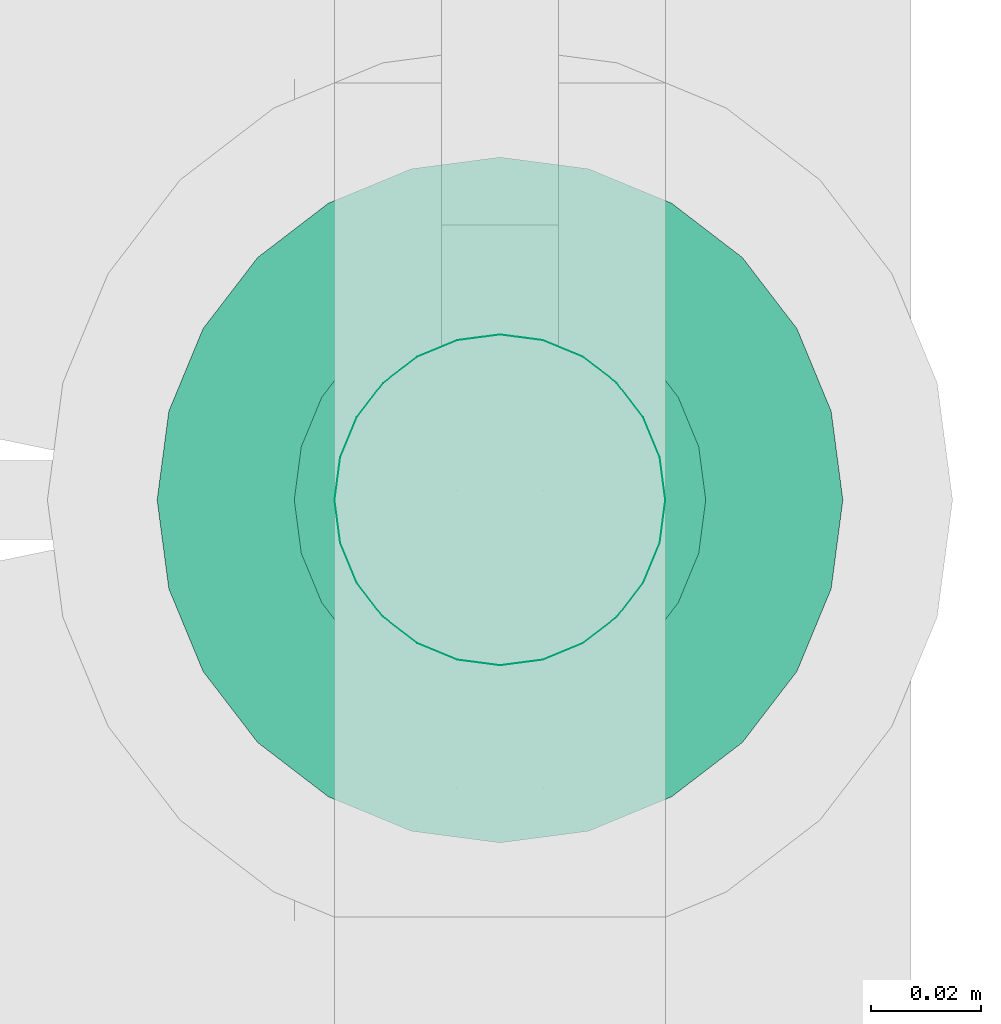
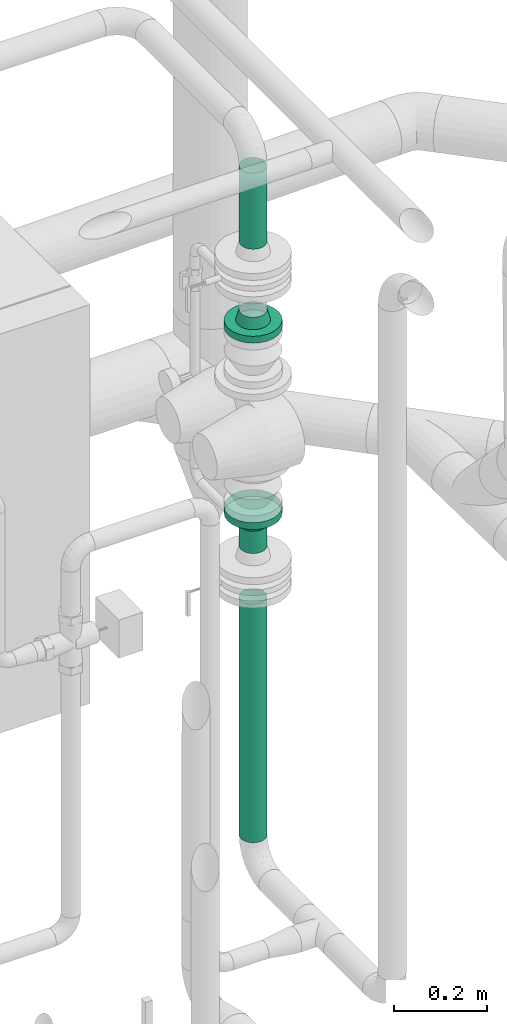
# One storey, part 288 of 374: 3 flow segments, 2 flow fittings.
"""IFC2X3 building model written with IfcOpenShell, lengths in metres."""

from ifc_helpers import new_model, si_unit, direction, origin, place, context, subcontext, project, spatial, open_shell, surface_model, source, transform, mapped, element, save


model = new_model("IFC2X3")

# Units and contexts
model_context = context("Model", 3, precision=1e-05, world=origin(), true_north=direction((-0.4480736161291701, 0.8939966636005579)))
body_context = subcontext(model_context, "Body", "Model", "MODEL_VIEW")
ifc_project = project(units=[si_unit("LENGTHUNIT", "METRE"), si_unit("AREAUNIT", "SQUARE_METRE"), si_unit("VOLUMEUNIT", "CUBIC_METRE"), si_unit("PLANEANGLEUNIT", "RADIAN"), si_unit("THERMODYNAMICTEMPERATUREUNIT", "KELVIN"), si_unit("MASSUNIT", "GRAM", prefix="KILO"), si_unit("TIMEUNIT", "SECOND")], contexts=[model_context])

# Site, building, storey
site_placement = place(None, origin())
site = spatial("IfcSite", under=ifc_project, at=site_placement, Name="Site 1", CompositionType="ELEMENT")
building_placement = place(site_placement, origin())
building = spatial("IfcBuilding", under=site, at=building_placement, Name="Undefined", CompositionType="ELEMENT")
storey_placement = place(building_placement, origin())
storey = spatial("IfcBuildingStorey", under=building, at=storey_placement, Name="Rez de chauss\x8ee", CompositionType="ELEMENT", Elevation=0.0)

# Flow fittings
shared_shape_1 = source(origin(), body_context, "Body", "SurfaceModel", [
    surface_model("IfcFaceBasedSurfaceModel", [(0.027982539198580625, 0.0, 0.0), (0.02825238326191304, 0.007866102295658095, 7.105427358e-15), (0.00033562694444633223, 0.009783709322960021, 0.0), (0.0, 0.0, 0.0), (0.029043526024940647, 0.01544597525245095, -0.001966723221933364), (0.0013196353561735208, 0.01921141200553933, -0.0024461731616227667), (0.030302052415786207, 0.022223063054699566, -0.005766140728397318), (0.0028849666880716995, 0.027640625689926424, -0.007171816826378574), (0.03194219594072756, 0.02773551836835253, -0.011139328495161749), (0.0049249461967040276, 0.03449691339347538, -0.013854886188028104), (0.03385218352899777, 0.0316076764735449, -0.017720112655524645), (0.007300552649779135, 0.039313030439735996, -0.02203994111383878), (0.03590185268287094, 0.03357565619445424, -0.025060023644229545), (0.009849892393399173, 0.041760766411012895, -0.03116918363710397), (0.037951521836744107, 0.0335053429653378, -0.03265885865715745), (0.01239923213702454, 0.04167331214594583, -0.04062047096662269), (0.03986150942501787, 0.031401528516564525, -0.03999876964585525), (0.014774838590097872, 0.03905662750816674, -0.049749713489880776), (0.04150165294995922, 0.0274075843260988, -0.046579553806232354), (0.0168148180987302, 0.034089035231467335, -0.05793476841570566), (0.04276017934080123, 0.021795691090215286, -0.051952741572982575), (0.01838014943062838, 0.02710906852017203, -0.06461783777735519), (0.04355132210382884, 0.014948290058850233, -0.055752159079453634), (0.019364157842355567, 0.018592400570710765, -0.06934348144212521), (0.043821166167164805, 0.007332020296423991, -0.0577188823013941), (0.019699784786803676, 0.009119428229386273, -0.07178965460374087), (0.04355132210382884, -0.0005340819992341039, -0.0577188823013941), (0.019364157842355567, -0.0006642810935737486, -0.07178965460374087), (0.04276017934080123, -0.008113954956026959, -0.055752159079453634), (0.01838014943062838, -0.010091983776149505, -0.06934348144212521), (0.04150165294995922, -0.014891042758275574, -0.05195274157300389), (0.0168148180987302, -0.01852119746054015, -0.0646178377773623), (0.03986150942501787, -0.02040349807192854, -0.046579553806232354), (0.014774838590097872, -0.02537748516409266, -0.05793476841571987), (0.037951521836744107, -0.024275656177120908, -0.03999876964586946), (0.01239923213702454, -0.030193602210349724, -0.04974971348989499), (0.03590185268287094, -0.02624363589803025, -0.03265885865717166), (0.009849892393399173, -0.032641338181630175, -0.0406204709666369), (0.03385218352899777, -0.026173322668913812, -0.02506002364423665), (0.007300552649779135, -0.032553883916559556, -0.031169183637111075), (0.03194219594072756, -0.024069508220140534, -0.017720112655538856), (0.0049249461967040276, -0.02993719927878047, -0.0220399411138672), (0.030302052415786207, -0.02007556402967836, -0.011139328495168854), (0.0028849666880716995, -0.024969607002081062, -0.01385488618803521), (0.029043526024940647, -0.014463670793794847, -0.005766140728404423), (0.0013196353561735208, -0.017989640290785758, -0.00717181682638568), (0.02825238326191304, -0.007616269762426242, -0.001966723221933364), (0.00033562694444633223, -0.009472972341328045, -0.0024461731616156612), (0.009849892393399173, -0.05744203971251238, -0.04377090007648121), (0.005600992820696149, -0.05729628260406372, -0.028018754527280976), (-0.011766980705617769, -0.05670047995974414, -0.0327090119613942), (-0.007518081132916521, -0.056846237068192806, -0.04846115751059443), (0.0016416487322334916, -0.052935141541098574, -0.012803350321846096), (-0.015726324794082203, -0.052339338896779, -0.017493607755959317), (-0.0017583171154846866, -0.04465582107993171, 0.0008384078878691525), (-0.019126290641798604, -0.044060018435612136, -0.0038518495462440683), (-0.0043672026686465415, -0.03302254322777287, 0.011976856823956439), (-0.02173517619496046, -0.032426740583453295, 0.007286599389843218), (-0.006007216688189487, -0.018828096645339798, 0.01985292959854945), (-0.023375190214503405, -0.01823229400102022, 0.01516267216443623), (-0.00656659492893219, -0.0030398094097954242, 0.023929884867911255), (-0.023934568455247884, -0.002444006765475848, 0.019239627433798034), (-0.006007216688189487, 0.01326637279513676, 0.023929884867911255), (-0.023375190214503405, 0.013862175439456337, 0.019239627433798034), (-0.0043672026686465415, 0.02897921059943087, 0.019852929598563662), (-0.02173517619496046, 0.029575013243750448, 0.015162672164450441), (-0.0017583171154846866, 0.04302790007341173, 0.011976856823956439), (-0.019126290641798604, 0.043623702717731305, 0.007286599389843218), (0.0016416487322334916, 0.05445504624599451, 0.0008384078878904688), (-0.015726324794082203, 0.055050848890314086, -0.003851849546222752), (0.005600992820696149, 0.062481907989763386, -0.01280335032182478), (-0.011766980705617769, 0.06307771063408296, -0.017493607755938), (0.009849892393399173, 0.0665614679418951, -0.02801875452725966), (-0.007518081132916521, 0.06715727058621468, -0.03270901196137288), (0.014098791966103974, 0.06641571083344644, -0.04377090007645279), (-0.0032691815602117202, 0.06701151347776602, -0.04846115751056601), (0.01805813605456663, 0.062054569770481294, -0.05898630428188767), (0.0006901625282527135, 0.06265037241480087, -0.06367656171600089), (0.021458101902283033, 0.05377524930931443, -0.07262806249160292), (0.004090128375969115, 0.05437105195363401, -0.07731831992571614), (0.024066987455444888, 0.04214197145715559, -0.083766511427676), (0.00669901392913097, 0.04273777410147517, -0.08845676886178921), (0.025707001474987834, 0.027947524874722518, -0.09164258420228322), (0.008339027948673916, 0.028543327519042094, -0.09633284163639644), (0.026266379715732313, 0.012159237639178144, -0.09571953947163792), (0.008898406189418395, 0.01275504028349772, -0.10040979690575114), (0.025707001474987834, -0.0041469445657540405, -0.09571953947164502), (0.008339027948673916, -0.003551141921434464, -0.10040979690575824), (0.024066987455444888, -0.01985978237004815, -0.09164258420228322), (0.00669901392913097, -0.019263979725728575, -0.09633284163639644), (0.021458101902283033, -0.03390847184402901, -0.0837665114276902), (0.004090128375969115, -0.03331266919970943, -0.08845676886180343), (0.01805813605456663, -0.04533561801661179, -0.07262806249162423), (0.0006901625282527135, -0.04473981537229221, -0.07731831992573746), (0.014098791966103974, -0.053362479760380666, -0.058986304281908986), (-0.0032691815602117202, -0.05276667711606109, -0.0636765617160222), (0.009849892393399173, 0.00455971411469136, -0.03589482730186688)], [open_shell([[[0, 1, 2, 3]], [[1, 4, 5, 2]], [[4, 6, 7, 5]], [[6, 8, 9, 7]], [[8, 10, 11, 9]], [[10, 12, 13, 11]], [[12, 14, 15, 13]], [[14, 16, 17, 15]], [[16, 18, 19, 17]], [[18, 20, 21, 19]], [[20, 22, 23, 21]], [[22, 24, 25, 23]], [[24, 26, 27, 25]], [[26, 28, 29, 27]], [[28, 30, 31, 29]], [[30, 32, 33, 31]], [[32, 34, 35, 33]], [[34, 36, 37, 35]], [[36, 38, 39, 37]], [[38, 40, 41, 39]], [[40, 42, 43, 41]], [[42, 44, 45, 43]], [[44, 46, 47, 45]], [[46, 0, 3, 47]], [[48, 49, 50, 51]], [[49, 52, 53, 50]], [[52, 54, 55, 53]], [[54, 56, 57, 55]], [[56, 58, 59, 57]], [[58, 60, 61, 59]], [[60, 62, 63, 61]], [[62, 64, 65, 63]], [[64, 66, 67, 65]], [[66, 68, 69, 67]], [[68, 70, 71, 69]], [[70, 72, 73, 71]], [[72, 74, 75, 73]], [[74, 76, 77, 75]], [[76, 78, 79, 77]], [[78, 80, 81, 79]], [[80, 82, 83, 81]], [[82, 84, 85, 83]], [[84, 86, 87, 85]], [[86, 88, 89, 87]], [[88, 90, 91, 89]], [[90, 92, 93, 91]], [[92, 94, 95, 93]], [[94, 48, 51, 95]], [[96, 49, 48]], [[96, 52, 49]], [[96, 54, 52]], [[96, 56, 54]], [[96, 58, 56]], [[96, 60, 58]], [[96, 62, 60]], [[96, 64, 62]], [[96, 66, 64]], [[96, 68, 66]], [[96, 70, 68]], [[96, 72, 70]], [[96, 74, 72]], [[96, 76, 74]], [[96, 78, 76]], [[96, 80, 78]], [[96, 82, 80]], [[96, 84, 82]], [[96, 86, 84]], [[96, 88, 86]], [[96, 90, 88]], [[96, 92, 90]], [[96, 94, 92]], [[96, 48, 94]]])]),
])
flow_fitting_1_placement = place(storey_placement, origin())
element("IfcFlowFitting", 1, at=flow_fitting_1_placement, inside=storey, Name="Bride", ObjectType="Bride", context=body_context, shape_type="MappedRepresentation", body=[
    mapped(shared_shape_1, transform((55.036829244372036, 11.997676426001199, 1.579175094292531), x_axis=(-0.26266379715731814, 0.0, 0.9648874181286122), y_axis=(-0.12159237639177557, -0.9920280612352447, -0.0331001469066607), z_axis=(0.957195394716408, -0.12601716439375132, 0.26056985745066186))),
])
shared_shape_2 = source(origin(), body_context, "Body", "SurfaceModel", [
    surface_model("IfcFaceBasedSurfaceModel", [(0.0, 0.0163157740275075, 0.0), (0.0, 0.0, 0.0), (0.018000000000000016, 0.0, 1.776356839e-15), (0.018000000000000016, 0.016315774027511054, 0.0), (0.0, -0.015759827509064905, -0.004222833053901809), (0.018000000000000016, -0.01575982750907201, -0.004222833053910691), (0.0, -0.029889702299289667, -0.012380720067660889), (0.018000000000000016, -0.02988970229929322, -0.012380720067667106), (0.0, -0.04142669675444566, -0.02391771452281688), (0.018000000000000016, -0.041426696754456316, -0.023917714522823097), (0.0, -0.04958458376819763, -0.038047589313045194), (0.018000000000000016, -0.04958458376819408, -0.0380475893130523), (0.0, -0.053807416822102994, -0.053807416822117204), (0.018000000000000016, -0.0538074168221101, -0.05380741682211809), (0.0, -0.053807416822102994, -0.07012319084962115), (0.018000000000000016, -0.053807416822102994, -0.07012319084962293), (0.0, -0.04958458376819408, -0.08588301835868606), (0.018000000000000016, -0.049584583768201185, -0.08588301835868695), (0.0, -0.04142669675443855, -0.10001289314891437), (0.018000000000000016, -0.041426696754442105, -0.10001289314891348), (0.0, -0.02988970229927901, -0.11154988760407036), (0.018000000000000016, -0.029889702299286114, -0.11154988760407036), (0.0, -0.015759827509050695, -0.11970777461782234), (0.018000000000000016, -0.015759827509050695, -0.11970777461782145), (0.0, 1.4210854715e-14, -0.12393060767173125), (0.018000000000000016, 1.4210854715e-14, -0.1239306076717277), (0.0, 0.016315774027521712, -0.12393060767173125), (0.018000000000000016, 0.016315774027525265, -0.12393060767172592), (0.0, 0.03207560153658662, -0.11970777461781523), (0.018000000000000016, 0.032075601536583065, -0.11970777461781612), (0.0, 0.04620547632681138, -0.11154988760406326), (0.018000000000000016, 0.04620547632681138, -0.11154988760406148), (0.0, 0.05774247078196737, -0.10001289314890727), (0.018000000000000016, 0.05774247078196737, -0.10001289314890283), (0.0, 0.06590035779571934, -0.08588301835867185), (0.018000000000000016, 0.06590035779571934, -0.08588301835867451), (0.0, 0.0701231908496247, -0.07012319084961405), (0.018000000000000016, 0.07012319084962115, -0.0701231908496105), (0.0, 0.0701231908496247, -0.05380741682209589), (0.018000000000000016, 0.07012319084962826, -0.05380741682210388), (0.0, 0.06590035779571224, -0.03804758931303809), (0.018000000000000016, 0.06590035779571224, -0.038047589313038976), (0.0, 0.05774247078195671, -0.023917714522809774), (0.018000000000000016, 0.057742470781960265, -0.023917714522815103), (0.0, 0.04620547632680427, -0.012380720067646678), (0.018000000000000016, 0.04620547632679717, -0.012380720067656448), (0.0, 0.03207560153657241, -0.004222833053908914), (0.018000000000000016, 0.03207560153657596, -0.004222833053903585), (0.018000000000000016, 0.00815788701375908, -0.06196530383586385), (0.018000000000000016, -0.029021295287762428, -0.05707057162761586), (0.018000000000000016, -0.029021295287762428, -0.06686003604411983), (0.04499999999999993, -0.021734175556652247, -0.06590066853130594), (0.04499999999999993, -0.021734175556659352, -0.05802993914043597), (0.018000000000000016, -0.026487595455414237, -0.0763159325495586), (0.04499999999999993, -0.019697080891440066, -0.07350320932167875), (0.018000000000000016, -0.021592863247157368, -0.08479385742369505), (0.04499999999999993, -0.015761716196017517, -0.08031946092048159), (0.018000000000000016, -0.014670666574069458, -0.09171605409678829), (0.04499999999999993, -0.010196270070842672, -0.08588490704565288), (0.018000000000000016, -0.00619274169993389, -0.09661078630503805), (0.04499999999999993, -0.0033800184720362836, -0.08982027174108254), (0.018000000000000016, 0.0032631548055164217, -0.0991444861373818), (0.04499999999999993, 0.004222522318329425, -0.09185736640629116), (0.018000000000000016, 0.013052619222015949, -0.0991444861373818), (0.04499999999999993, 0.012093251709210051, -0.09185736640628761), (0.018000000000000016, 0.02250851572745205, -0.09661078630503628), (0.04499999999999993, 0.01969579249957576, -0.08982027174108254), (0.018000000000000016, 0.03098644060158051, -0.09171605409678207), (0.04499999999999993, 0.026512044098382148, -0.08588490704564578), (0.018000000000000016, 0.03790863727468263, -0.08479385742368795), (0.04499999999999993, 0.03207749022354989, -0.08031946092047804), (0.018000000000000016, 0.042803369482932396, -0.07631593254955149), (0.04499999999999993, 0.03601285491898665, -0.07350320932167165), (0.018000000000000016, 0.04533706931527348, -0.06686003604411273), (0.04499999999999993, 0.03804994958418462, -0.06590066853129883), (0.018000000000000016, 0.04533706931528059, -0.05707057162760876), (0.04499999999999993, 0.03804994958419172, -0.05802993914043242), (0.018000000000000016, 0.042803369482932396, -0.047614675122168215), (0.04499999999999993, 0.03601285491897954, -0.05042739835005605), (0.018000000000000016, 0.03790863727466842, -0.039136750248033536), (0.04499999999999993, 0.03207749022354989, -0.043611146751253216), (0.018000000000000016, 0.03098644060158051, -0.03221455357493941), (0.04499999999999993, 0.026512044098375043, -0.03804570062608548), (0.018000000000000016, 0.02250851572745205, -0.027319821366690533), (0.04499999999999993, 0.01969579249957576, -0.03411033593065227), (0.018000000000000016, 0.013052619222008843, -0.024786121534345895), (0.04499999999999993, 0.01209325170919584, -0.032073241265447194), (0.018000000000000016, 0.003263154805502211, -0.024786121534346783), (0.04499999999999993, 0.004222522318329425, -0.03207324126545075), (0.018000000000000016, -0.006192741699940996, -0.02731982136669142), (0.04499999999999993, -0.003380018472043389, -0.03411033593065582), (0.018000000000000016, -0.014670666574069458, -0.032214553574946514), (0.04499999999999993, -0.010196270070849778, -0.03804570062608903), (0.018000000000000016, -0.021592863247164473, -0.039136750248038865), (0.04499999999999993, -0.01576171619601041, -0.04361114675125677), (0.018000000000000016, -0.026487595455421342, -0.0476146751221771), (0.04499999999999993, -0.019697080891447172, -0.05042739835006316)], [open_shell([[[0, 1, 2, 3]], [[1, 4, 5, 2]], [[4, 6, 7, 5]], [[6, 8, 9, 7]], [[8, 10, 11, 9]], [[10, 12, 13, 11]], [[12, 14, 15, 13]], [[14, 16, 17, 15]], [[16, 18, 19, 17]], [[18, 20, 21, 19]], [[20, 22, 23, 21]], [[22, 24, 25, 23]], [[24, 26, 27, 25]], [[26, 28, 29, 27]], [[28, 30, 31, 29]], [[30, 32, 33, 31]], [[32, 34, 35, 33]], [[34, 36, 37, 35]], [[36, 38, 39, 37]], [[38, 40, 41, 39]], [[40, 42, 43, 41]], [[42, 44, 45, 43]], [[44, 46, 47, 45]], [[46, 0, 3, 47]], [[48, 47, 3]], [[48, 45, 47]], [[48, 43, 45]], [[48, 41, 43]], [[48, 39, 41]], [[48, 37, 39]], [[48, 35, 37]], [[48, 33, 35]], [[48, 31, 33]], [[48, 29, 31]], [[48, 27, 29]], [[48, 25, 27]], [[48, 23, 25]], [[48, 21, 23]], [[48, 19, 21]], [[48, 17, 19]], [[48, 15, 17]], [[48, 13, 15]], [[48, 11, 13]], [[48, 9, 11]], [[48, 7, 9]], [[48, 5, 7]], [[48, 2, 5]], [[48, 3, 2]], [[49, 50, 51, 52]], [[50, 53, 54, 51]], [[53, 55, 56, 54]], [[55, 57, 58, 56]], [[57, 59, 60, 58]], [[59, 61, 62, 60]], [[61, 63, 64, 62]], [[63, 65, 66, 64]], [[65, 67, 68, 66]], [[67, 69, 70, 68]], [[69, 71, 72, 70]], [[71, 73, 74, 72]], [[73, 75, 76, 74]], [[75, 77, 78, 76]], [[77, 79, 80, 78]], [[79, 81, 82, 80]], [[81, 83, 84, 82]], [[83, 85, 86, 84]], [[85, 87, 88, 86]], [[87, 89, 90, 88]], [[89, 91, 92, 90]], [[91, 93, 94, 92]], [[93, 95, 96, 94]], [[95, 49, 52, 96]]])]),
])
flow_fitting_2_placement = place(storey_placement, origin())
element("IfcFlowFitting", 2, at=flow_fitting_2_placement, inside=storey, Name="Bride", ObjectType="Bride", context=body_context, shape_type="MappedRepresentation", body=[
    mapped(shared_shape_2, transform((54.983153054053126, 11.93730606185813, 1.091175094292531), x_axis=(0.0, 0.0, -1.0), y_axis=(0.9914448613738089, -0.13052619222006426, 0.0), z_axis=(-0.13052619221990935, -0.9914448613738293, 0.0))),
])

# Flow segments
shared_shape_3 = source(origin(), body_context, "Body", "SurfaceModel", [
    surface_model("IfcFaceBasedSurfaceModel", [(0.0, 0.007870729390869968, 7.105427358e-15), (0.0, 0.0, 0.0), (0.6244402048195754, 0.0, -3.552713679e-15), (0.6244402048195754, 0.007870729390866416, -3.552713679e-15), (0.0, -0.00760254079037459, -0.0020370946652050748), (0.6244402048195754, -0.007602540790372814, -0.0020370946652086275), (0.0, -0.01441879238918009, -0.00597245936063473), (0.6244402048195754, -0.014418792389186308, -0.005972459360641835), (0.0, -0.019984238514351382, -0.011537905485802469), (0.6244402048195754, -0.019984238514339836, -0.011537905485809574), (0.0, -0.023919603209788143, -0.018354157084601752), (0.6244402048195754, -0.023919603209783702, -0.018354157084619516), (0.0, -0.025956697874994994, -0.025956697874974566), (0.6244402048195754, -0.025956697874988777, -0.02595669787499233), (0.0, -0.025956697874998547, -0.03382742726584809), (0.6244402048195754, -0.025956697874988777, -0.033827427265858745), (0.0, -0.02391960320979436, -0.041429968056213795), (0.6244402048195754, -0.023919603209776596, -0.04142996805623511), (0.0, -0.019984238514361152, -0.04824621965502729), (0.6244402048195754, -0.01998423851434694, -0.04824621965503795), (0.0, -0.01441879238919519, -0.05381166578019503), (0.6244402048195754, -0.014418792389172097, -0.053811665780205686), (0.0, -0.007602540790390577, -0.05774703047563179), (0.6244402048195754, -0.007602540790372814, -0.057747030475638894), (0.0, -1.7763568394e-14, -0.05978412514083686), (0.6244402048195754, 7.105427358e-15, -0.059784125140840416), (0.0, 0.007870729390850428, -0.05978412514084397), (0.6244402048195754, 0.007870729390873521, -0.05978412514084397), (0.0, 0.015473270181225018, -0.057747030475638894), (0.6244402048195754, 0.01547327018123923, -0.057747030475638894), (0.0, 0.022289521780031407, -0.05381166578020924), (0.6244402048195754, 0.022289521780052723, -0.053811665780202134), (0.0, 0.027854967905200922, -0.048246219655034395), (0.6244402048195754, 0.027854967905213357, -0.048246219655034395), (0.0, 0.031790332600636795, -0.04142996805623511), (0.6244402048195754, 0.03179033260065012, -0.041429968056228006), (0.0, 0.033827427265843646, -0.0338274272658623), (0.6244402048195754, 0.03382742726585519, -0.03382742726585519), (0.0, 0.0338274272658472, -0.025956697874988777), (0.6244402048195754, 0.03382742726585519, -0.025956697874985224), (0.0, 0.0317903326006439, -0.01835415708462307), (0.6244402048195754, 0.03179033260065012, -0.018354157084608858), (0.0, 0.02785496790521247, -0.01153790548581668), (0.6244402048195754, 0.027854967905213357, -0.011537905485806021), (0.0, 0.022289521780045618, -0.005972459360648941), (0.6244402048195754, 0.022289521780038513, -0.005972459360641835), (0.0, 0.015473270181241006, -0.0020370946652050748), (0.6244402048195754, 0.015473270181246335, -0.0020370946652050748)], [open_shell([[[0, 1, 2, 3]], [[1, 4, 5, 2]], [[4, 6, 7, 5]], [[6, 8, 9, 7]], [[8, 10, 11, 9]], [[10, 12, 13, 11]], [[12, 14, 15, 13]], [[14, 16, 17, 15]], [[16, 18, 19, 17]], [[18, 20, 21, 19]], [[20, 22, 23, 21]], [[22, 24, 25, 23]], [[24, 26, 27, 25]], [[26, 28, 29, 27]], [[28, 30, 31, 29]], [[30, 32, 33, 31]], [[32, 34, 35, 33]], [[34, 36, 37, 35]], [[36, 38, 39, 37]], [[38, 40, 41, 39]], [[40, 42, 43, 41]], [[42, 44, 45, 43]], [[44, 46, 47, 45]], [[46, 0, 3, 47]]])]),
])
flow_segment_1_placement = place(storey_placement, origin())
element("IfcFlowSegment", 3, at=flow_segment_1_placement, inside=storey, Name="Tube acier d'après DIN 2448", ObjectType="Tube acier d'après DIN 2448", context=body_context, shape_type="MappedRepresentation", body=[
    mapped(shared_shape_3, transform((54.9915258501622, 11.968553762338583, 0.8549161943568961), x_axis=(0.0, 0.0, -1.0), y_axis=(0.9914448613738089, -0.13052619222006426, 0.0), z_axis=(-0.13052619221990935, -0.9914448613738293, 0.0))),
])
shared_shape_4 = source(origin(), body_context, "Body", "SurfaceModel", [
    surface_model("IfcFaceBasedSurfaceModel", [(0.0, 0.007870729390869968, 7.105427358e-15), (0.0, 0.0, 0.0), (0.05825889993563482, 0.0, 8.8817842e-16), (0.05825889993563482, 0.007870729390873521, 0.0), (0.0, -0.00760254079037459, -0.0020370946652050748), (0.05825889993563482, -0.007602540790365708, -0.0020370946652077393), (0.0, -0.01441879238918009, -0.00597245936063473), (0.05825889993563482, -0.014418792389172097, -0.005972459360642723), (0.0, -0.019984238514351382, -0.011537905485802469), (0.05825889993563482, -0.019984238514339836, -0.011537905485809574), (0.0, -0.023919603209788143, -0.018354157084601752), (0.05825889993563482, -0.023919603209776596, -0.01835415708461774), (0.0, -0.025956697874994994, -0.025956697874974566), (0.05825889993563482, -0.025956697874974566, -0.02595669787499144), (0.0, -0.025956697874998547, -0.03382742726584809), (0.05825889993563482, -0.025956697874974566, -0.033827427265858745), (0.0, -0.02391960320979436, -0.041429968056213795), (0.05825889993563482, -0.02391960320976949, -0.041429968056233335), (0.0, -0.019984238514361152, -0.04824621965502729), (0.05825889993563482, -0.01998423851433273, -0.048246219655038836), (0.0, -0.01441879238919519, -0.05381166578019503), (0.05825889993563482, -0.014418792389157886, -0.0538116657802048), (0.0, -0.007602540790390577, -0.05774703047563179), (0.05825889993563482, -0.007602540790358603, -0.05774703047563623), (0.0, -1.7763568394e-14, -0.05978412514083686), (0.05825889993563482, 1.4210854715e-14, -0.059784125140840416), (0.0, 0.007870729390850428, -0.05978412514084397), (0.05825889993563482, 0.007870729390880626, -0.05978412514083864), (0.0, 0.015473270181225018, -0.057747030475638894), (0.05825889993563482, 0.01547327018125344, -0.05774703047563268), (0.0, 0.022289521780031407, -0.05381166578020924), (0.05825889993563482, 0.02228952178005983, -0.05381166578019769), (0.0, 0.027854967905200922, -0.048246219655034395), (0.05825889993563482, 0.027854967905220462, -0.04824621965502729), (0.0, 0.031790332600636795, -0.04142996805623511), (0.05825889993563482, 0.03179033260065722, -0.04142996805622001), (0.0, 0.033827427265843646, -0.0338274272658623), (0.05825889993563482, 0.0338274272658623, -0.03382742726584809), (0.0, 0.0338274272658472, -0.025956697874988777), (0.05825889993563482, 0.03382742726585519, -0.025956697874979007), (0.0, 0.0317903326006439, -0.01835415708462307), (0.05825889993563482, 0.03179033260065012, -0.01835415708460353), (0.0, 0.02785496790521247, -0.01153790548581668), (0.05825889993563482, 0.027854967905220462, -0.01153790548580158), (0.0, 0.022289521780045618, -0.005972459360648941), (0.05825889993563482, 0.022289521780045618, -0.005972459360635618), (0.0, 0.015473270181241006, -0.0020370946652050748), (0.05825889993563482, 0.01547327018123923, -0.002037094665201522)], [open_shell([[[0, 1, 2, 3]], [[1, 4, 5, 2]], [[4, 6, 7, 5]], [[6, 8, 9, 7]], [[8, 10, 11, 9]], [[10, 12, 13, 11]], [[12, 14, 15, 13]], [[14, 16, 17, 15]], [[16, 18, 19, 17]], [[18, 20, 21, 19]], [[20, 22, 23, 21]], [[22, 24, 25, 23]], [[24, 26, 27, 25]], [[26, 28, 29, 27]], [[28, 30, 31, 29]], [[30, 32, 33, 31]], [[32, 34, 35, 33]], [[34, 36, 37, 35]], [[36, 38, 39, 37]], [[38, 40, 41, 39]], [[40, 42, 43, 41]], [[42, 44, 45, 43]], [[44, 46, 47, 45]], [[46, 0, 3, 47]]])]),
])
flow_segment_2_placement = place(storey_placement, origin())
element("IfcFlowSegment", 4, at=flow_segment_2_placement, inside=storey, Name="Tube acier d'après DIN 2448", ObjectType="Tube acier d'après DIN 2448", context=body_context, shape_type="MappedRepresentation", body=[
    mapped(shared_shape_4, transform((55.00713263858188, 11.968553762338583, 0.9879161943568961), x_axis=(0.0, 0.0, 1.0), y_axis=(-0.9914448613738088, -0.13052619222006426, 0.0), z_axis=(0.13052619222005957, -0.9914448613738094, 0.0))),
])
shared_shape_5 = source(origin(), body_context, "Body", "SurfaceModel", [
    surface_model("IfcFaceBasedSurfaceModel", [(0.0, 0.007870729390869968, 7.105427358e-15), (0.0, 0.0, 0.0), (0.19917253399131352, 0.0, 8.8817842e-16), (0.19917253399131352, 0.007870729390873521, 0.0), (0.0, -0.00760254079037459, -0.0020370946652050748), (0.19917253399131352, -0.007602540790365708, -0.0020370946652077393), (0.0, -0.01441879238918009, -0.00597245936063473), (0.19917253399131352, -0.014418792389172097, -0.005972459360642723), (0.0, -0.019984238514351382, -0.011537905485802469), (0.19917253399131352, -0.019984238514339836, -0.011537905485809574), (0.0, -0.023919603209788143, -0.018354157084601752), (0.19917253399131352, -0.023919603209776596, -0.01835415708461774), (0.0, -0.025956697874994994, -0.025956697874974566), (0.19917253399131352, -0.025956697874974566, -0.02595669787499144), (0.0, -0.025956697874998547, -0.03382742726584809), (0.19917253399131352, -0.025956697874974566, -0.033827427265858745), (0.0, -0.02391960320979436, -0.041429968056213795), (0.19917253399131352, -0.02391960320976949, -0.041429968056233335), (0.0, -0.019984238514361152, -0.04824621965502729), (0.19917253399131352, -0.01998423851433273, -0.048246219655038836), (0.0, -0.01441879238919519, -0.05381166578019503), (0.19917253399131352, -0.014418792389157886, -0.0538116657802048), (0.0, -0.007602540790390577, -0.05774703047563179), (0.19917253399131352, -0.007602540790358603, -0.05774703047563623), (0.0, -1.7763568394e-14, -0.05978412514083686), (0.19917253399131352, 1.4210854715e-14, -0.059784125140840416), (0.0, 0.007870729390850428, -0.05978412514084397), (0.19917253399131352, 0.007870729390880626, -0.05978412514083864), (0.0, 0.015473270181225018, -0.057747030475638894), (0.19917253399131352, 0.01547327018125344, -0.05774703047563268), (0.0, 0.022289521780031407, -0.05381166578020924), (0.19917253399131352, 0.02228952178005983, -0.05381166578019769), (0.0, 0.027854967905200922, -0.048246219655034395), (0.19917253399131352, 0.027854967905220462, -0.04824621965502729), (0.0, 0.031790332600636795, -0.04142996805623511), (0.19917253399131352, 0.03179033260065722, -0.04142996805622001), (0.0, 0.033827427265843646, -0.0338274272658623), (0.19917253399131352, 0.0338274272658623, -0.03382742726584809), (0.0, 0.0338274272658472, -0.025956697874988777), (0.19917253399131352, 0.03382742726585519, -0.025956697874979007), (0.0, 0.0317903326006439, -0.01835415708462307), (0.19917253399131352, 0.03179033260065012, -0.01835415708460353), (0.0, 0.02785496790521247, -0.01153790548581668), (0.19917253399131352, 0.027854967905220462, -0.01153790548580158), (0.0, 0.022289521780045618, -0.005972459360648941), (0.19917253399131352, 0.022289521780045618, -0.005972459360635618), (0.0, 0.015473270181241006, -0.0020370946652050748), (0.19917253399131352, 0.01547327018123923, -0.002037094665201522)], [open_shell([[[0, 1, 2, 3]], [[1, 4, 5, 2]], [[4, 6, 7, 5]], [[6, 8, 9, 7]], [[8, 10, 11, 9]], [[10, 12, 13, 11]], [[12, 14, 15, 13]], [[14, 16, 17, 15]], [[16, 18, 19, 17]], [[18, 20, 21, 19]], [[20, 22, 23, 21]], [[22, 24, 25, 23]], [[24, 26, 27, 25]], [[26, 28, 29, 27]], [[28, 30, 31, 29]], [[30, 32, 33, 31]], [[32, 34, 35, 33]], [[34, 36, 37, 35]], [[36, 38, 39, 37]], [[38, 40, 41, 39]], [[40, 42, 43, 41]], [[42, 44, 45, 43]], [[44, 46, 47, 45]], [[46, 0, 3, 47]]])]),
])
flow_segment_3_placement = place(storey_placement, origin())
element("IfcFlowSegment", 5, at=flow_segment_3_placement, inside=storey, Name="Tube acier d'après DIN 2448", ObjectType="Tube acier d'après DIN 2448", context=body_context, shape_type="MappedRepresentation", body=[
    mapped(shared_shape_5, transform((55.00713263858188, 11.968553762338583, 1.7844691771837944), x_axis=(0.0, 0.0, 1.0), y_axis=(-0.9914448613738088, -0.13052619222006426, 0.0), z_axis=(0.13052619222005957, -0.9914448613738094, 0.0))),
])

save(model, "model.ifc")
